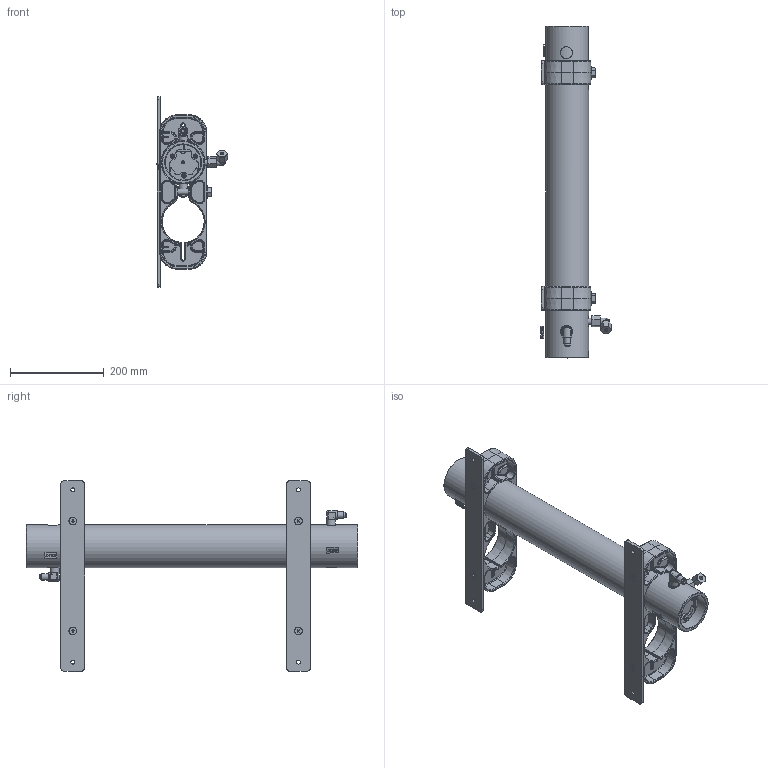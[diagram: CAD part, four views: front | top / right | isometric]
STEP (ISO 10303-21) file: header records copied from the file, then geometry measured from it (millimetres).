
FILE_DESCRIPTION(/* description */ (''),/* implementation_level */ '2;1');
FILE_NAME(/* name */ 'E:\Engineering\SRC\Leisure Marine, Product Development\2- STANDARD UNITS\HRO-MODULAR UNITS\H25M SEAFARI VERSATILE MODULAR W-TRANS\P2221510001 MEMBRANE RACK 450-1 STD HRO.stp',/* time_stamp */ '2016-06-15T15:21:40-07:00',/* author */ ('515746'),/* organization */ (''),/* preprocessor_version */ 'ST-DEVELOPER v16.1',/* originating_system */ 'Autodesk Inventor 2016',/* authorisation */ '');
FILE_SCHEMA (('AUTOMOTIVE_DESIGN { 1 0 10303 214 3 1 1 }'));
Products named in the file (2): P2221510001 MEMBRANE RACK 450-1 STD HRO_Substitute_1; P2221510001 MEMBRANE RACK 450-1 STD HRO
Assembly tree (1 placements, depth 2):
  P2221510001 MEMBRANE RACK 450-1 STD HRO
    P2221510001 MEMBRANE RACK 450-1 STD HRO_Substitute_1
Bounding box: 152.63 x 709.6 x 406.4 mm (x, y, z)
Volume: 3367067.7 mm3; surface area: 894274.5 mm2
Topology: 37 solids, 37 shells, 1951 faces, 4488 edges, 2656 vertices
Faces by surface type: plane 626, cylinder 483, cone 361, torus 235, bspline 198, sphere 48
Full cylindrical faces by diameter (mm): 3.969 x2, 5.105 x8, 6.35 x15, 6.528 x8, 7.137 x6, 7.163 x2, 7.493 x2, 7.62 x2, 7.938 x56, 8.001 x2, 8.433 x8, 9.246 x1, 9.525 x6, 10.668 x2, 11.112 x4, 12.065 x2, 12.7 x4, 13.03 x2, 13.716 x7, 13.97 x2, 14.148 x2, 14.288 x2, 16.662 x4, 17.145 x2, 17.602 x4, 19.05 x4, 19.126 x4, 20.65 x1, 21.514 x6, 21.641 x2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
Entity records: 64860 total; most frequent: CARTESIAN_POINT 21677, DIRECTION 8879, ORIENTED_EDGE 7824, EDGE_CURVE 3912, AXIS2_PLACEMENT_3D 3635, VERTEX_POINT 2549, EDGE_LOOP 2539, FACE_OUTER_BOUND 1950
